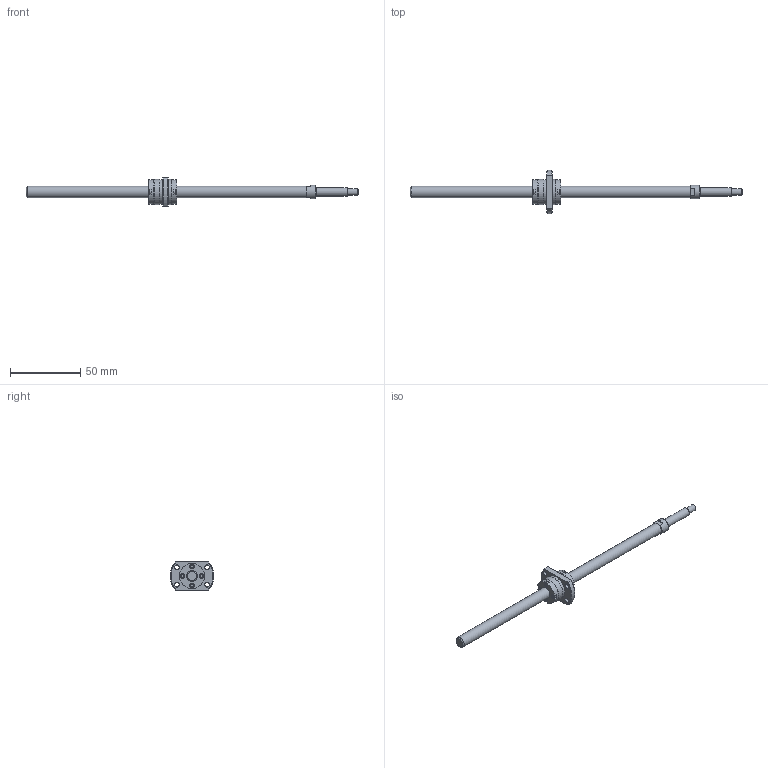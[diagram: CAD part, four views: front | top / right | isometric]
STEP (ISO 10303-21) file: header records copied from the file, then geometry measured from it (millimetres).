
FILE_DESCRIPTION(/* description */ ('STEP AP214'),/* implementation_level */ '2;1');
FILE_NAME(/* name */ 'SRT0808-196R237C7A0X(87.5Processing)',/* time_stamp */ '2026-08-04T20:03:48+02:00',/* author */ ('License CC BY-ND 4.0'),/* organization */ ('CADENAS'),/* preprocessor_version */ 'ST-DEVELOPER v20',/* originating_system */ 'PARTsolutions',/* authorisation */ ' ');
FILE_SCHEMA (('AUTOMOTIVE_DESIGN {1 0 10303 214 3 1 1}'));
Length unit declared in the file: millimetre
Products named in the file (3): SRT0808-196R237C7A0X(87.5Processing); SRT0808-196R270ACt7Processing45Shaft; SRT0808Nut
Assembly tree (2 placements, depth 2):
  SRT0808-196R237C7A0X(87.5Processing)
    SRT0808-196R270ACt7Processing45Shaft
    SRT0808Nut
Bounding box: 237 x 30.91 x 20 mm (x, y, z)
Volume: 16251.6 mm3; surface area: 9000.9 mm2
Topology: 2 solids, 2 shells, 150 faces, 359 edges, 236 vertices
Faces by surface type: plane 107, cylinder 32, cone 10, torus 1
Full cylindrical faces by diameter (mm): 3 x8, 3.4 x4, 4.5 x1, 6 x1, 8 x2, 9.5 x1, 17.5 x2, 17.7 x1, 18 x2
Entity records: 4267 total; most frequent: CARTESIAN_POINT 737, DIRECTION 718, ORIENTED_EDGE 654, EDGE_CURVE 327, AXIS2_PLACEMENT_3D 246, VERTEX_POINT 233, LINE 226, VECTOR 226
